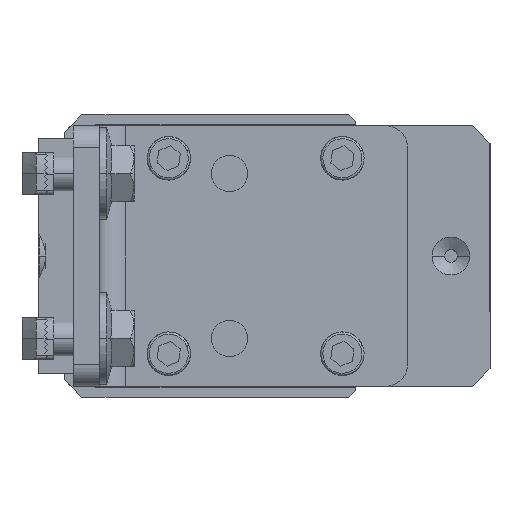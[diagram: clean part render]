
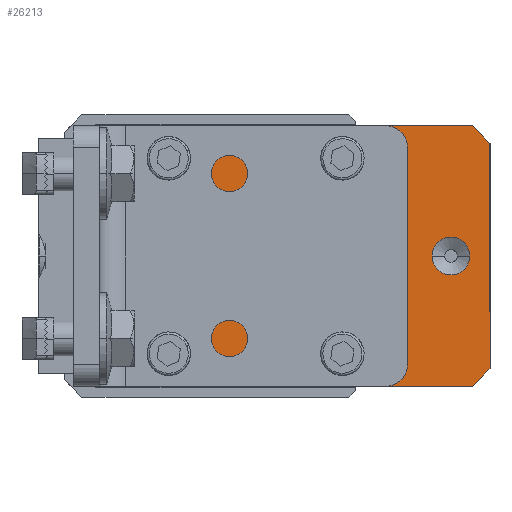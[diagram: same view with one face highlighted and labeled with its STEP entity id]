
A CAD part, front view. The second image highlights one B-rep face of the part: STEP entity #26213.
In plain terms, the highlighted planar face has unit normal (0, -1, 0).
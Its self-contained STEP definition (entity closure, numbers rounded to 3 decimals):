
#1942 = DIRECTION ( 'NONE',  ( -1., 0., 0. ) ) ;
#2236 = DIRECTION ( 'NONE',  ( -1., 0., 0. ) ) ;
#2389 = VECTOR ( 'NONE', #9661, 1000. ) ;
#2422 = ORIENTED_EDGE ( 'NONE', *, *, #4028, .T. ) ;
#3972 = CIRCLE ( 'NONE', #17028, 3. ) ;
#4028 = EDGE_CURVE ( 'NONE', #10000, #30138, #29257, .T. ) ;
#4773 = CARTESIAN_POINT ( 'NONE',  ( 30., -4., 22.5 ) ) ;
#4845 = CARTESIAN_POINT ( 'NONE',  ( 95., -4., 0. ) ) ;
#4847 = VERTEX_POINT ( 'NONE', #5302 ) ;
#5269 = CARTESIAN_POINT ( 'NONE',  ( 104., -4., 26. ) ) ;
#5302 = CARTESIAN_POINT ( 'NONE',  ( 90.65, -4., 0. ) ) ;
#5610 = CARTESIAN_POINT ( 'NONE',  ( 70., -4., -22.5 ) ) ;
#5774 = CIRCLE ( 'NONE', #19266, 4.35 ) ;
#5880 = VECTOR ( 'NONE', #32150, 1000. ) ;
#5940 = EDGE_LOOP ( 'NONE', ( #17586, #2422, #13074, #33452, #37656, #13232 ) ) ;
#6643 = DIRECTION ( 'NONE',  ( 0., -1., 0. ) ) ;
#7745 = DIRECTION ( 'NONE',  ( -1., 0., 0. ) ) ;
#7798 = FACE_BOUND ( 'NONE', #12810, .T. ) ;
#7809 = DIRECTION ( 'NONE',  ( 1., 0., 0. ) ) ;
#8078 = CARTESIAN_POINT ( 'NONE',  ( 72.771, -4., 23.649 ) ) ;
#8396 = CARTESIAN_POINT ( 'NONE',  ( 100., -4., 30. ) ) ;
#8568 = DIRECTION ( 'NONE',  ( -1., 0., 0. ) ) ;
#8707 = FACE_BOUND ( 'NONE', #30945, .T. ) ;
#8788 = EDGE_LOOP ( 'NONE', ( #24747, #18527 ) ) ;
#8986 = CARTESIAN_POINT ( 'NONE',  ( 72.771, -4., -21.351 ) ) ;
#9002 = DIRECTION ( 'NONE',  ( 0., -1., 0. ) ) ;
#9134 = EDGE_CURVE ( 'NONE', #25792, #4847, #30619, .T. ) ;
#9233 = EDGE_CURVE ( 'NONE', #16641, #33126, #11997, .T. ) ;
#9588 = EDGE_CURVE ( 'NONE', #33126, #16641, #34285, .T. ) ;
#9598 = AXIS2_PLACEMENT_3D ( 'NONE', #15063, #35878, #18103 ) ;
#9637 = AXIS2_PLACEMENT_3D ( 'NONE', #29762, #11932, #32715 ) ;
#9661 = DIRECTION ( 'NONE',  ( 0., 0., 1. ) ) ;
#10000 = VERTEX_POINT ( 'NONE', #14818 ) ;
#10462 = CARTESIAN_POINT ( 'NONE',  ( 95., -4., 0. ) ) ;
#10477 = CARTESIAN_POINT ( 'NONE',  ( 20., -4., -30. ) ) ;
#10872 = AXIS2_PLACEMENT_3D ( 'NONE', #5610, #26392, #8568 ) ;
#10949 = VERTEX_POINT ( 'NONE', #5269 ) ;
#11791 = DIRECTION ( 'NONE',  ( 0., 1., 0. ) ) ;
#11932 = DIRECTION ( 'NONE',  ( 0., -1., 0. ) ) ;
#11997 = CIRCLE ( 'NONE', #24449, 3. ) ;
#11998 = VECTOR ( 'NONE', #34621, 1000. ) ;
#12258 = CARTESIAN_POINT ( 'NONE',  ( 104., -4., -30. ) ) ;
#12435 = EDGE_CURVE ( 'NONE', #37655, #16399, #3972, .T. ) ;
#12552 = CARTESIAN_POINT ( 'NONE',  ( 32.771, -4., -21.351 ) ) ;
#12810 = EDGE_LOOP ( 'NONE', ( #23158, #36744 ) ) ;
#13074 = ORIENTED_EDGE ( 'NONE', *, *, #32230, .T. ) ;
#13232 = ORIENTED_EDGE ( 'NONE', *, *, #16871, .T. ) ;
#13448 = DIRECTION ( 'NONE',  ( 1., 0., 0. ) ) ;
#14630 = ORIENTED_EDGE ( 'NONE', *, *, #36805, .F. ) ;
#14664 = LINE ( 'NONE', #8396, #5880 ) ;
#14719 = FACE_OUTER_BOUND ( 'NONE', #5940, .T. ) ;
#14818 = CARTESIAN_POINT ( 'NONE',  ( 100., -4., -30. ) ) ;
#15027 = EDGE_CURVE ( 'NONE', #16399, #37655, #37301, .T. ) ;
#15063 = CARTESIAN_POINT ( 'NONE',  ( 70., -4., -22.5 ) ) ;
#15122 = VERTEX_POINT ( 'NONE', #28783 ) ;
#15170 = CARTESIAN_POINT ( 'NONE',  ( 99.35, -4., 0. ) ) ;
#15249 = VECTOR ( 'NONE', #33894, 1000. ) ;
#15521 = ORIENTED_EDGE ( 'NONE', *, *, #9233, .F. ) ;
#15616 = EDGE_CURVE ( 'NONE', #15122, #30691, #23381, .T. ) ;
#16105 = CARTESIAN_POINT ( 'NONE',  ( 104., -4., -26. ) ) ;
#16206 = CIRCLE ( 'NONE', #21312, 3. ) ;
#16399 = VERTEX_POINT ( 'NONE', #19392 ) ;
#16641 = VERTEX_POINT ( 'NONE', #36338 ) ;
#16871 = EDGE_CURVE ( 'NONE', #29641, #24057, #30750, .T. ) ;
#17028 = AXIS2_PLACEMENT_3D ( 'NONE', #26832, #9002, #29811 ) ;
#17586 = ORIENTED_EDGE ( 'NONE', *, *, #20354, .T. ) ;
#18103 = DIRECTION ( 'NONE',  ( -1., 0., 0. ) ) ;
#18527 = ORIENTED_EDGE ( 'NONE', *, *, #15616, .F. ) ;
#18841 = EDGE_CURVE ( 'NONE', #35306, #28437, #16206, .T. ) ;
#19266 = AXIS2_PLACEMENT_3D ( 'NONE', #4845, #25602, #7809 ) ;
#19392 = CARTESIAN_POINT ( 'NONE',  ( 32.769, -4., 23.653 ) ) ;
#19691 = DIRECTION ( 'NONE',  ( 0., -1., 0. ) ) ;
#19718 = CARTESIAN_POINT ( 'NONE',  ( 20., -4., 30. ) ) ;
#19735 = AXIS2_PLACEMENT_3D ( 'NONE', #37459, #19691, #1942 ) ;
#19991 = DIRECTION ( 'NONE',  ( 0., -1., 0. ) ) ;
#20354 = EDGE_CURVE ( 'NONE', #24057, #10000, #24517, .T. ) ;
#20419 = EDGE_CURVE ( 'NONE', #30691, #15122, #30527, .T. ) ;
#20530 = CARTESIAN_POINT ( 'NONE',  ( 104., -4., -26. ) ) ;
#21225 = ORIENTED_EDGE ( 'NONE', *, *, #9588, .F. ) ;
#21312 = AXIS2_PLACEMENT_3D ( 'NONE', #24470, #6643, #27444 ) ;
#22636 = AXIS2_PLACEMENT_3D ( 'NONE', #29617, #11791, #32560 ) ;
#22684 = FACE_BOUND ( 'NONE', #22993, .T. ) ;
#22903 = VECTOR ( 'NONE', #31149, 1000. ) ;
#22993 = EDGE_LOOP ( 'NONE', ( #25847, #14630 ) ) ;
#23091 = CARTESIAN_POINT ( 'NONE',  ( 100., -4., 30. ) ) ;
#23158 = ORIENTED_EDGE ( 'NONE', *, *, #15027, .F. ) ;
#23318 = CARTESIAN_POINT ( 'NONE',  ( 20., -4., 30. ) ) ;
#23381 = CIRCLE ( 'NONE', #10872, 3. ) ;
#24057 = VERTEX_POINT ( 'NONE', #34968 ) ;
#24449 = AXIS2_PLACEMENT_3D ( 'NONE', #37758, #19991, #2236 ) ;
#24470 = CARTESIAN_POINT ( 'NONE',  ( 70., -4., 22.5 ) ) ;
#24517 = LINE ( 'NONE', #38141, #31474 ) ;
#24747 = ORIENTED_EDGE ( 'NONE', *, *, #20419, .F. ) ;
#25099 = LINE ( 'NONE', #12258, #2389 ) ;
#25108 = EDGE_CURVE ( 'NONE', #26549, #29641, #35710, .T. ) ;
#25533 = DIRECTION ( 'NONE',  ( 0., -1., 0. ) ) ;
#25602 = DIRECTION ( 'NONE',  ( 0., -1., 0. ) ) ;
#25792 = VERTEX_POINT ( 'NONE', #15170 ) ;
#25847 = ORIENTED_EDGE ( 'NONE', *, *, #9134, .F. ) ;
#26009 = ORIENTED_EDGE ( 'NONE', *, *, #18841, .F. ) ;
#26213 = ADVANCED_FACE ( 'NONE', ( #38463, #30535, #7798, #8707, #22684, #14719 ), #38195, .F. ) ;
#26325 = DIRECTION ( 'NONE',  ( 1., 0., 0. ) ) ;
#26392 = DIRECTION ( 'NONE',  ( 0., -1., 0. ) ) ;
#26549 = VERTEX_POINT ( 'NONE', #23091 ) ;
#26780 = CARTESIAN_POINT ( 'NONE',  ( 27.231, -4., 21.347 ) ) ;
#26832 = CARTESIAN_POINT ( 'NONE',  ( 30., -4., 22.5 ) ) ;
#27444 = DIRECTION ( 'NONE',  ( -1., 0., 0. ) ) ;
#28437 = VERTEX_POINT ( 'NONE', #8078 ) ;
#28783 = CARTESIAN_POINT ( 'NONE',  ( 67.229, -4., -23.649 ) ) ;
#29257 = LINE ( 'NONE', #16105, #15249 ) ;
#29617 = CARTESIAN_POINT ( 'NONE',  ( 20., -4., 30. ) ) ;
#29641 = VERTEX_POINT ( 'NONE', #23318 ) ;
#29706 = EDGE_CURVE ( 'NONE', #28437, #35306, #35434, .T. ) ;
#29762 = CARTESIAN_POINT ( 'NONE',  ( 70., -4., 22.5 ) ) ;
#29811 = DIRECTION ( 'NONE',  ( -1., 0., 0. ) ) ;
#30138 = VERTEX_POINT ( 'NONE', #20530 ) ;
#30527 = CIRCLE ( 'NONE', #9598, 3. ) ;
#30535 = FACE_BOUND ( 'NONE', #8788, .T. ) ;
#30619 = CIRCLE ( 'NONE', #37107, 4.35 ) ;
#30691 = VERTEX_POINT ( 'NONE', #8986 ) ;
#30750 = LINE ( 'NONE', #10477, #22903 ) ;
#30945 = EDGE_LOOP ( 'NONE', ( #21225, #15521 ) ) ;
#31022 = AXIS2_PLACEMENT_3D ( 'NONE', #4773, #25533, #7745 ) ;
#31149 = DIRECTION ( 'NONE',  ( 0., 0., -1. ) ) ;
#31259 = DIRECTION ( 'NONE',  ( 0., -1., 0. ) ) ;
#31474 = VECTOR ( 'NONE', #26325, 1000. ) ;
#31611 = CARTESIAN_POINT ( 'NONE',  ( 67.229, -4., 21.351 ) ) ;
#32150 = DIRECTION ( 'NONE',  ( -0.707, 0., 0.707 ) ) ;
#32230 = EDGE_CURVE ( 'NONE', #30138, #10949, #25099, .T. ) ;
#32560 = DIRECTION ( 'NONE',  ( -1., 0., 0. ) ) ;
#32715 = DIRECTION ( 'NONE',  ( -1., 0., 0. ) ) ;
#33126 = VERTEX_POINT ( 'NONE', #12552 ) ;
#33452 = ORIENTED_EDGE ( 'NONE', *, *, #35014, .T. ) ;
#33894 = DIRECTION ( 'NONE',  ( 0.707, 0., 0.707 ) ) ;
#34285 = CIRCLE ( 'NONE', #19735, 3. ) ;
#34621 = DIRECTION ( 'NONE',  ( -1., 0., 0. ) ) ;
#34968 = CARTESIAN_POINT ( 'NONE',  ( 20., -4., -30. ) ) ;
#35014 = EDGE_CURVE ( 'NONE', #10949, #26549, #14664, .T. ) ;
#35077 = ORIENTED_EDGE ( 'NONE', *, *, #29706, .F. ) ;
#35306 = VERTEX_POINT ( 'NONE', #31611 ) ;
#35434 = CIRCLE ( 'NONE', #9637, 3. ) ;
#35688 = EDGE_LOOP ( 'NONE', ( #35077, #26009 ) ) ;
#35710 = LINE ( 'NONE', #19718, #11998 ) ;
#35878 = DIRECTION ( 'NONE',  ( 0., -1., 0. ) ) ;
#36338 = CARTESIAN_POINT ( 'NONE',  ( 27.229, -4., -23.649 ) ) ;
#36744 = ORIENTED_EDGE ( 'NONE', *, *, #12435, .F. ) ;
#36805 = EDGE_CURVE ( 'NONE', #4847, #25792, #5774, .T. ) ;
#37107 = AXIS2_PLACEMENT_3D ( 'NONE', #10462, #31259, #13448 ) ;
#37301 = CIRCLE ( 'NONE', #31022, 3. ) ;
#37459 = CARTESIAN_POINT ( 'NONE',  ( 30., -4., -22.5 ) ) ;
#37655 = VERTEX_POINT ( 'NONE', #26780 ) ;
#37656 = ORIENTED_EDGE ( 'NONE', *, *, #25108, .T. ) ;
#37758 = CARTESIAN_POINT ( 'NONE',  ( 30., -4., -22.5 ) ) ;
#38141 = CARTESIAN_POINT ( 'NONE',  ( 20., -4., -30. ) ) ;
#38195 = PLANE ( 'NONE',  #22636 ) ;
#38463 = FACE_BOUND ( 'NONE', #35688, .T. ) ;
